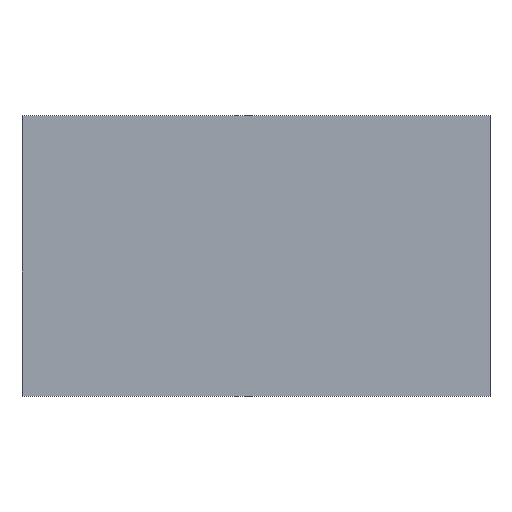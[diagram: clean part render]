
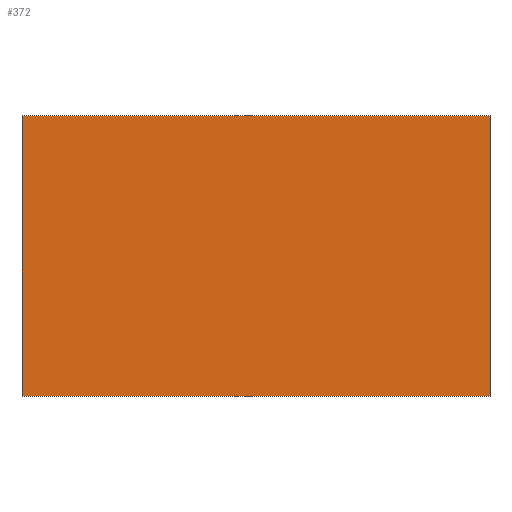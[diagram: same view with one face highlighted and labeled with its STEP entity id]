
A CAD part, top view. The second image highlights one B-rep face of the part: STEP entity #372.
In plain terms, the highlighted planar face has unit normal (0, 0, 1).
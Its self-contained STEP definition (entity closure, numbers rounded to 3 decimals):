
#58 = VERTEX_POINT('',#59);
#59 = CARTESIAN_POINT('',(-100.,-60.,8.));
#66 = PLANE('',#67);
#67 = AXIS2_PLACEMENT_3D('',#68,#69,#70);
#68 = CARTESIAN_POINT('',(-100.,-60.,0.));
#69 = DIRECTION('',(1.,0.,-0.));
#70 = DIRECTION('',(0.,0.,1.));
#78 = PLANE('',#79);
#79 = AXIS2_PLACEMENT_3D('',#80,#81,#82);
#80 = CARTESIAN_POINT('',(-100.,-60.,0.));
#81 = DIRECTION('',(-0.,1.,0.));
#82 = DIRECTION('',(0.,0.,1.));
#119 = VERTEX_POINT('',#120);
#120 = CARTESIAN_POINT('',(-100.,60.,8.));
#134 = PLANE('',#135);
#135 = AXIS2_PLACEMENT_3D('',#136,#137,#138);
#136 = CARTESIAN_POINT('',(-100.,60.,0.));
#137 = DIRECTION('',(-0.,1.,0.));
#138 = DIRECTION('',(0.,0.,1.));
#146 = EDGE_CURVE('',#58,#119,#147,.T.);
#147 = SURFACE_CURVE('',#148,(#152,#159),.PCURVE_S1.);
#148 = LINE('',#149,#150);
#149 = CARTESIAN_POINT('',(-100.,-60.,8.));
#150 = VECTOR('',#151,1.);
#151 = DIRECTION('',(-0.,1.,0.));
#152 = PCURVE('',#66,#153);
#153 = DEFINITIONAL_REPRESENTATION('',(#154),#158);
#154 = LINE('',#155,#156);
#155 = CARTESIAN_POINT('',(8.,0.));
#156 = VECTOR('',#157,1.);
#157 = DIRECTION('',(0.,-1.));
#158 = ( GEOMETRIC_REPRESENTATION_CONTEXT(2) 
PARAMETRIC_REPRESENTATION_CONTEXT() REPRESENTATION_CONTEXT('2D SPACE',''
  ) );
#159 = PCURVE('',#160,#165);
#160 = PLANE('',#161);
#161 = AXIS2_PLACEMENT_3D('',#162,#163,#164);
#162 = CARTESIAN_POINT('',(-100.,-60.,8.));
#163 = DIRECTION('',(0.,0.,1.));
#164 = DIRECTION('',(1.,0.,-0.));
#165 = DEFINITIONAL_REPRESENTATION('',(#166),#170);
#166 = LINE('',#167,#168);
#167 = CARTESIAN_POINT('',(0.,0.));
#168 = VECTOR('',#169,1.);
#169 = DIRECTION('',(0.,1.));
#170 = ( GEOMETRIC_REPRESENTATION_CONTEXT(2) 
PARAMETRIC_REPRESENTATION_CONTEXT() REPRESENTATION_CONTEXT('2D SPACE',''
  ) );
#178 = VERTEX_POINT('',#179);
#179 = CARTESIAN_POINT('',(100.,-60.,8.));
#186 = PLANE('',#187);
#187 = AXIS2_PLACEMENT_3D('',#188,#189,#190);
#188 = CARTESIAN_POINT('',(100.,-60.,0.));
#189 = DIRECTION('',(1.,0.,-0.));
#190 = DIRECTION('',(0.,0.,1.));
#229 = VERTEX_POINT('',#230);
#230 = CARTESIAN_POINT('',(100.,60.,8.));
#251 = EDGE_CURVE('',#178,#229,#252,.T.);
#252 = SURFACE_CURVE('',#253,(#257,#264),.PCURVE_S1.);
#253 = LINE('',#254,#255);
#254 = CARTESIAN_POINT('',(100.,-60.,8.));
#255 = VECTOR('',#256,1.);
#256 = DIRECTION('',(-0.,1.,0.));
#257 = PCURVE('',#186,#258);
#258 = DEFINITIONAL_REPRESENTATION('',(#259),#263);
#259 = LINE('',#260,#261);
#260 = CARTESIAN_POINT('',(8.,0.));
#261 = VECTOR('',#262,1.);
#262 = DIRECTION('',(0.,-1.));
#263 = ( GEOMETRIC_REPRESENTATION_CONTEXT(2) 
PARAMETRIC_REPRESENTATION_CONTEXT() REPRESENTATION_CONTEXT('2D SPACE',''
  ) );
#264 = PCURVE('',#160,#265);
#265 = DEFINITIONAL_REPRESENTATION('',(#266),#270);
#266 = LINE('',#267,#268);
#267 = CARTESIAN_POINT('',(200.,0.));
#268 = VECTOR('',#269,1.);
#269 = DIRECTION('',(0.,1.));
#270 = ( GEOMETRIC_REPRESENTATION_CONTEXT(2) 
PARAMETRIC_REPRESENTATION_CONTEXT() REPRESENTATION_CONTEXT('2D SPACE',''
  ) );
#297 = EDGE_CURVE('',#58,#178,#298,.T.);
#298 = SURFACE_CURVE('',#299,(#303,#310),.PCURVE_S1.);
#299 = LINE('',#300,#301);
#300 = CARTESIAN_POINT('',(-100.,-60.,8.));
#301 = VECTOR('',#302,1.);
#302 = DIRECTION('',(1.,0.,-0.));
#303 = PCURVE('',#78,#304);
#304 = DEFINITIONAL_REPRESENTATION('',(#305),#309);
#305 = LINE('',#306,#307);
#306 = CARTESIAN_POINT('',(8.,0.));
#307 = VECTOR('',#308,1.);
#308 = DIRECTION('',(0.,1.));
#309 = ( GEOMETRIC_REPRESENTATION_CONTEXT(2) 
PARAMETRIC_REPRESENTATION_CONTEXT() REPRESENTATION_CONTEXT('2D SPACE',''
  ) );
#310 = PCURVE('',#160,#311);
#311 = DEFINITIONAL_REPRESENTATION('',(#312),#316);
#312 = LINE('',#313,#314);
#313 = CARTESIAN_POINT('',(0.,0.));
#314 = VECTOR('',#315,1.);
#315 = DIRECTION('',(1.,0.));
#316 = ( GEOMETRIC_REPRESENTATION_CONTEXT(2) 
PARAMETRIC_REPRESENTATION_CONTEXT() REPRESENTATION_CONTEXT('2D SPACE',''
  ) );
#344 = EDGE_CURVE('',#119,#229,#345,.T.);
#345 = SURFACE_CURVE('',#346,(#350,#357),.PCURVE_S1.);
#346 = LINE('',#347,#348);
#347 = CARTESIAN_POINT('',(-100.,60.,8.));
#348 = VECTOR('',#349,1.);
#349 = DIRECTION('',(1.,0.,-0.));
#350 = PCURVE('',#134,#351);
#351 = DEFINITIONAL_REPRESENTATION('',(#352),#356);
#352 = LINE('',#353,#354);
#353 = CARTESIAN_POINT('',(8.,0.));
#354 = VECTOR('',#355,1.);
#355 = DIRECTION('',(0.,1.));
#356 = ( GEOMETRIC_REPRESENTATION_CONTEXT(2) 
PARAMETRIC_REPRESENTATION_CONTEXT() REPRESENTATION_CONTEXT('2D SPACE',''
  ) );
#357 = PCURVE('',#160,#358);
#358 = DEFINITIONAL_REPRESENTATION('',(#359),#363);
#359 = LINE('',#360,#361);
#360 = CARTESIAN_POINT('',(0.,120.));
#361 = VECTOR('',#362,1.);
#362 = DIRECTION('',(1.,0.));
#363 = ( GEOMETRIC_REPRESENTATION_CONTEXT(2) 
PARAMETRIC_REPRESENTATION_CONTEXT() REPRESENTATION_CONTEXT('2D SPACE',''
  ) );
#372 = ADVANCED_FACE('',(#373),#160,.T.);
#373 = FACE_BOUND('',#374,.T.);
#374 = EDGE_LOOP('',(#375,#376,#377,#378));
#375 = ORIENTED_EDGE('',*,*,#146,.F.);
#376 = ORIENTED_EDGE('',*,*,#297,.T.);
#377 = ORIENTED_EDGE('',*,*,#251,.T.);
#378 = ORIENTED_EDGE('',*,*,#344,.F.);
